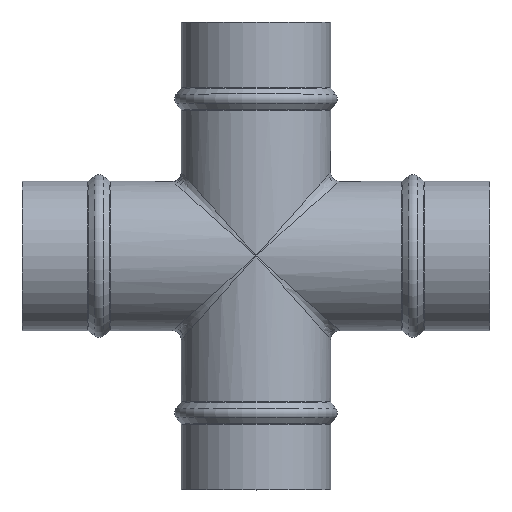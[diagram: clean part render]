
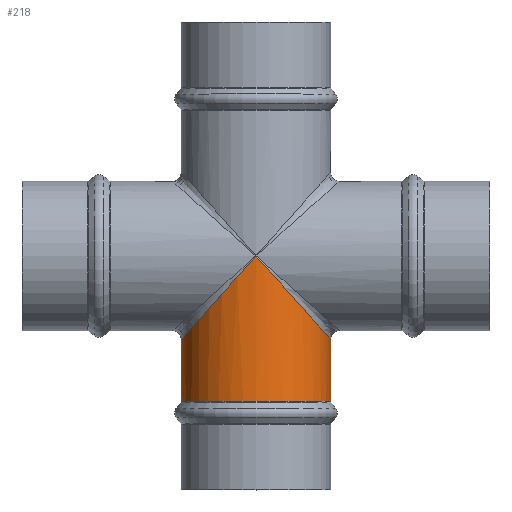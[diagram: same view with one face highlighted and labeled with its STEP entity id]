
A CAD part, top view. The second image highlights one B-rep face of the part: STEP entity #218.
In plain terms, the highlighted cylindrical face has radius 33.5 mm (diameter 67 mm), a full revolution.
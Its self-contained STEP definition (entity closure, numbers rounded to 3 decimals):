
#117=ELLIPSE('',#929,50.284,33.5);
#118=ELLIPSE('',#930,50.284,33.5);
#218=ADVANCED_FACE('',(#357,#358),#238,.T.);
#238=CYLINDRICAL_SURFACE('',#931,33.5);
#357=FACE_BOUND('',#477,.T.);
#358=FACE_BOUND('',#478,.T.);
#477=EDGE_LOOP('',(#608));
#478=EDGE_LOOP('',(#609,#610));
#608=ORIENTED_EDGE('',*,*,#744,.T.);
#609=ORIENTED_EDGE('',*,*,#745,.T.);
#610=ORIENTED_EDGE('',*,*,#746,.T.);
#628=VERTEX_POINT('',#1217);
#629=VERTEX_POINT('',#1218);
#678=VERTEX_POINT('',#1374);
#744=EDGE_CURVE('',#678,#678,#802,.T.);
#745=EDGE_CURVE('',#628,#629,#117,.T.);
#746=EDGE_CURVE('',#629,#628,#118,.T.);
#802=CIRCLE('',#927,33.5);
#927=AXIS2_PLACEMENT_3D('',#1373,#1180,#1181);
#929=AXIS2_PLACEMENT_3D('',#1376,#1184,#1185);
#930=AXIS2_PLACEMENT_3D('',#1377,#1186,#1187);
#931=AXIS2_PLACEMENT_3D('',#1378,#1188,#1189);
#1180=DIRECTION('',(0.,1.,0.));
#1181=DIRECTION('',(-1.,0.,0.));
#1184=DIRECTION('',(0.746,-0.666,0.));
#1185=DIRECTION('',(0.666,0.746,0.));
#1186=DIRECTION('',(-0.746,-0.666,0.));
#1187=DIRECTION('',(-0.666,0.746,0.));
#1188=DIRECTION('',(0.,1.,0.));
#1189=DIRECTION('',(-1.,0.,0.));
#1217=CARTESIAN_POINT('',(0.,0.,33.5));
#1218=CARTESIAN_POINT('',(0.,0.,-33.5));
#1373=CARTESIAN_POINT('',(0.,-65.343,0.));
#1374=CARTESIAN_POINT('',(-33.5,-65.343,0.));
#1376=CARTESIAN_POINT('',(0.,0.,0.));
#1377=CARTESIAN_POINT('',(0.,0.,0.));
#1378=CARTESIAN_POINT('',(0.,-105.,0.));
